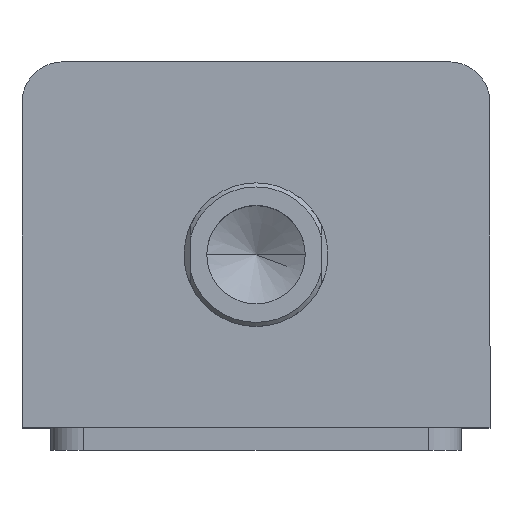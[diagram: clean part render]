
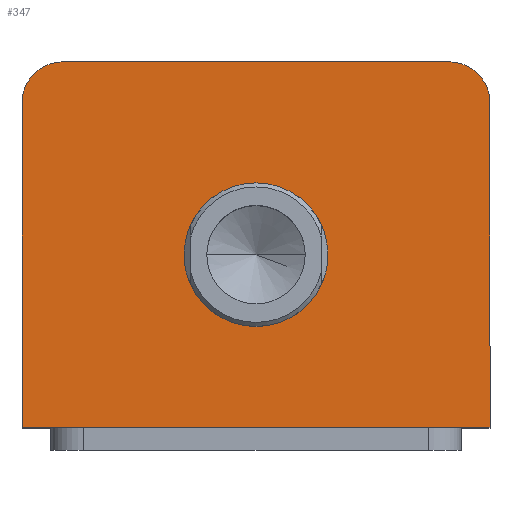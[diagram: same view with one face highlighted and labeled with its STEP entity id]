
A CAD part, top view. The second image highlights one B-rep face of the part: STEP entity #347.
In plain terms, the highlighted planar face has unit normal (0, 0, 1).
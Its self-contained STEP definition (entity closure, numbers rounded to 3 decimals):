
#250 = CARTESIAN_POINT ( 'NONE',  ( -17.5, -2.5, 147. ) ) ;
#251 = CARTESIAN_POINT ( 'NONE',  ( -57., -44.5, 147. ) ) ;
#252 = CARTESIAN_POINT ( 'NONE',  ( 17.5, -2.5, 147. ) ) ;
#256 = CARTESIAN_POINT ( 'NONE',  ( 57., -44.5, 147. ) ) ;
#272 = CARTESIAN_POINT ( 'NONE',  ( 57., 34.5, 147. ) ) ;
#284 = CARTESIAN_POINT ( 'NONE',  ( 47., 44.5, 147. ) ) ;
#287 = CARTESIAN_POINT ( 'NONE',  ( -47., 44.5, 147. ) ) ;
#295 = CARTESIAN_POINT ( 'NONE',  ( -57., 34.5, 147. ) ) ;
#347 = ADVANCED_FACE ( 'NONE', ( #1425, #1418 ), #1918, .T. ) ;
#1418 = FACE_OUTER_BOUND ( 'NONE', #2478, .T. ) ;
#1425 = FACE_BOUND ( 'NONE', #2477, .T. ) ;
#1497 = CARTESIAN_POINT ( 'NONE',  ( 47., 34.5, 147. ) ) ;
#1498 = DIRECTION ( 'NONE',  ( 0., 0., 1. ) ) ;
#1499 = DIRECTION ( 'NONE',  ( 1., 0., 0. ) ) ;
#1523 = CARTESIAN_POINT ( 'NONE',  ( -47., 34.5, 147. ) ) ;
#1524 = DIRECTION ( 'NONE',  ( 0., 0., 1. ) ) ;
#1525 = DIRECTION ( 'NONE',  ( 1., 0., 0. ) ) ;
#1534 = CARTESIAN_POINT ( 'NONE',  ( -57., 44.5, 147. ) ) ;
#1535 = DIRECTION ( 'NONE',  ( 0., -1., 0. ) ) ;
#1798 = VERTEX_POINT ( 'NONE', #250 ) ;
#1799 = VERTEX_POINT ( 'NONE', #251 ) ;
#1800 = VERTEX_POINT ( 'NONE', #252 ) ;
#1804 = VERTEX_POINT ( 'NONE', #256 ) ;
#1820 = VERTEX_POINT ( 'NONE', #272 ) ;
#1832 = VERTEX_POINT ( 'NONE', #284 ) ;
#1835 = VERTEX_POINT ( 'NONE', #287 ) ;
#1843 = VERTEX_POINT ( 'NONE', #295 ) ;
#1895 = ORIENTED_EDGE ( 'NONE', *, *, #3309, .F. ) ;
#1896 = ORIENTED_EDGE ( 'NONE', *, *, #3307, .F. ) ;
#1897 = ORIENTED_EDGE ( 'NONE', *, *, #3346, .T. ) ;
#1898 = ORIENTED_EDGE ( 'NONE', *, *, #3368, .T. ) ;
#1899 = ORIENTED_EDGE ( 'NONE', *, *, #3372, .T. ) ;
#1900 = ORIENTED_EDGE ( 'NONE', *, *, #3316, .T. ) ;
#1901 = ORIENTED_EDGE ( 'NONE', *, *, #3331, .T. ) ;
#1902 = ORIENTED_EDGE ( 'NONE', *, *, #3359, .T. ) ;
#1915 = CARTESIAN_POINT ( 'NONE',  ( 0., 0., 147. ) ) ;
#1918 = PLANE ( 'NONE',  #3241 ) ;
#1920 = DIRECTION ( 'NONE',  ( 0., 0., 1. ) ) ;
#1921 = DIRECTION ( 'NONE',  ( 1., 0., 0. ) ) ;
#2099 = CARTESIAN_POINT ( 'NONE',  ( -57., -44.5, 147. ) ) ;
#2108 = DIRECTION ( 'NONE',  ( 1., 0., 0. ) ) ;
#2136 = CARTESIAN_POINT ( 'NONE',  ( 57., 44.5, 147. ) ) ;
#2137 = DIRECTION ( 'NONE',  ( 0., 1., 0. ) ) ;
#2170 = CARTESIAN_POINT ( 'NONE',  ( -57., 44.5, 147. ) ) ;
#2171 = DIRECTION ( 'NONE',  ( -1., 0., 0. ) ) ;
#2230 = CIRCLE ( 'NONE', #3042, 17.5 ) ;
#2233 = CIRCLE ( 'NONE', #3041, 17.5 ) ;
#2239 = LINE ( 'NONE', #2099, #2246 ) ;
#2246 = VECTOR ( 'NONE', #2108, 1000. ) ;
#2273 = LINE ( 'NONE', #2136, #2276 ) ;
#2276 = VECTOR ( 'NONE', #2137, 1000. ) ;
#2300 = LINE ( 'NONE', #2170, #2303 ) ;
#2303 = VECTOR ( 'NONE', #2171, 1000. ) ;
#2316 = CIRCLE ( 'NONE', #3019, 10. ) ;
#2329 = CIRCLE ( 'NONE', #3012, 10. ) ;
#2335 = LINE ( 'NONE', #1534, #2338 ) ;
#2338 = VECTOR ( 'NONE', #1535, 1000. ) ;
#2477 = EDGE_LOOP ( 'NONE', ( #1895, #1896 ) ) ;
#2478 = EDGE_LOOP ( 'NONE', ( #1897, #1898, #1899, #1900, #1901, #1902 ) ) ;
#2627 = CARTESIAN_POINT ( 'NONE',  ( 0., -2.5, 147. ) ) ;
#2628 = DIRECTION ( 'NONE',  ( 0., 0., 1. ) ) ;
#2629 = DIRECTION ( 'NONE',  ( 1., 0., 0. ) ) ;
#2630 = CARTESIAN_POINT ( 'NONE',  ( 0., -2.5, 147. ) ) ;
#2631 = DIRECTION ( 'NONE',  ( 0., 0., 1. ) ) ;
#2632 = DIRECTION ( 'NONE',  ( 1., 0., 0. ) ) ;
#3012 = AXIS2_PLACEMENT_3D ( 'NONE', #1523, #1524, #1525 ) ;
#3019 = AXIS2_PLACEMENT_3D ( 'NONE', #1497, #1498, #1499 ) ;
#3041 = AXIS2_PLACEMENT_3D ( 'NONE', #2630, #2631, #2632 ) ;
#3042 = AXIS2_PLACEMENT_3D ( 'NONE', #2627, #2628, #2629 ) ;
#3241 = AXIS2_PLACEMENT_3D ( 'NONE', #1915, #1920, #1921 ) ;
#3307 = EDGE_CURVE ( 'NONE', #1798, #1800, #2230, .T. ) ;
#3309 = EDGE_CURVE ( 'NONE', #1800, #1798, #2233, .T. ) ;
#3316 = EDGE_CURVE ( 'NONE', #1799, #1804, #2239, .T. ) ;
#3331 = EDGE_CURVE ( 'NONE', #1804, #1820, #2273, .T. ) ;
#3346 = EDGE_CURVE ( 'NONE', #1832, #1835, #2300, .T. ) ;
#3359 = EDGE_CURVE ( 'NONE', #1820, #1832, #2316, .T. ) ;
#3368 = EDGE_CURVE ( 'NONE', #1835, #1843, #2329, .T. ) ;
#3372 = EDGE_CURVE ( 'NONE', #1843, #1799, #2335, .T. ) ;
